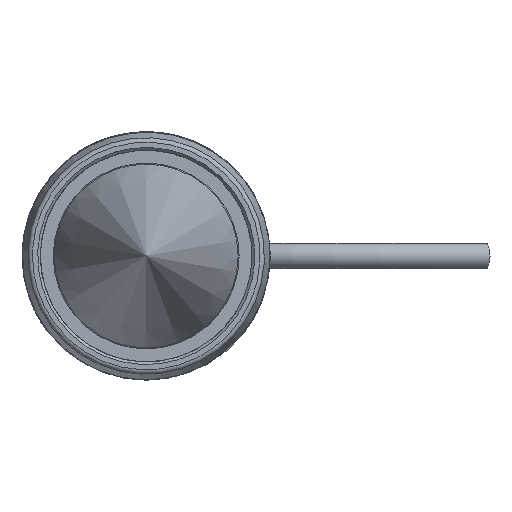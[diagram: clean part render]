
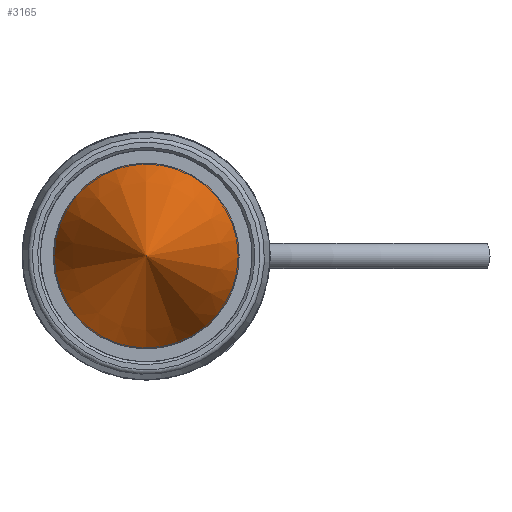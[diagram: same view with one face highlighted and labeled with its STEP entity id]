
A CAD part, front view. The second image highlights one B-rep face of the part: STEP entity #3165.
In plain terms, the highlighted conical face has half-angle 19.844 degrees and reference radius 360.893 mm.
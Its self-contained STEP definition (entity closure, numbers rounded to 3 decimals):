
#46 = ORIENTED_EDGE ( 'NONE', *, *, #3599, .F. ) ;
#77 = AXIS2_PLACEMENT_3D ( 'NONE', #5584, #2632, #2143 ) ;
#341 = CARTESIAN_POINT ( 'NONE',  ( 0., 0., 10.105 ) ) ;
#1095 = CONICAL_SURFACE ( 'NONE', #3183, 360.893, 0.346 ) ;
#1222 = EDGE_LOOP ( 'NONE', ( #46 ) ) ;
#2109 = FACE_OUTER_BOUND ( 'NONE', #1222, .T. ) ;
#2143 = DIRECTION ( 'NONE',  ( 0., 0., 1. ) ) ;
#2632 = DIRECTION ( 'NONE',  ( 0., 1., 0. ) ) ;
#2964 = CIRCLE ( 'NONE', #77, 10.105 ) ;
#3165 = ADVANCED_FACE ( 'NONE', ( #2109 ), #1095, .T. ) ;
#3183 = AXIS2_PLACEMENT_3D ( 'NONE', #4911, #4484, #4080 ) ;
#3599 = EDGE_CURVE ( 'NONE', #4767, #4767, #2964, .T. ) ;
#4080 = DIRECTION ( 'NONE',  ( 0., 0., 1. ) ) ;
#4484 = DIRECTION ( 'NONE',  ( 0., 1., 0. ) ) ;
#4767 = VERTEX_POINT ( 'NONE', #341 ) ;
#4911 = CARTESIAN_POINT ( 'NONE',  ( 0., 972., 0. ) ) ;
#5584 = CARTESIAN_POINT ( 'NONE',  ( 0., 0., 0. ) ) ;
